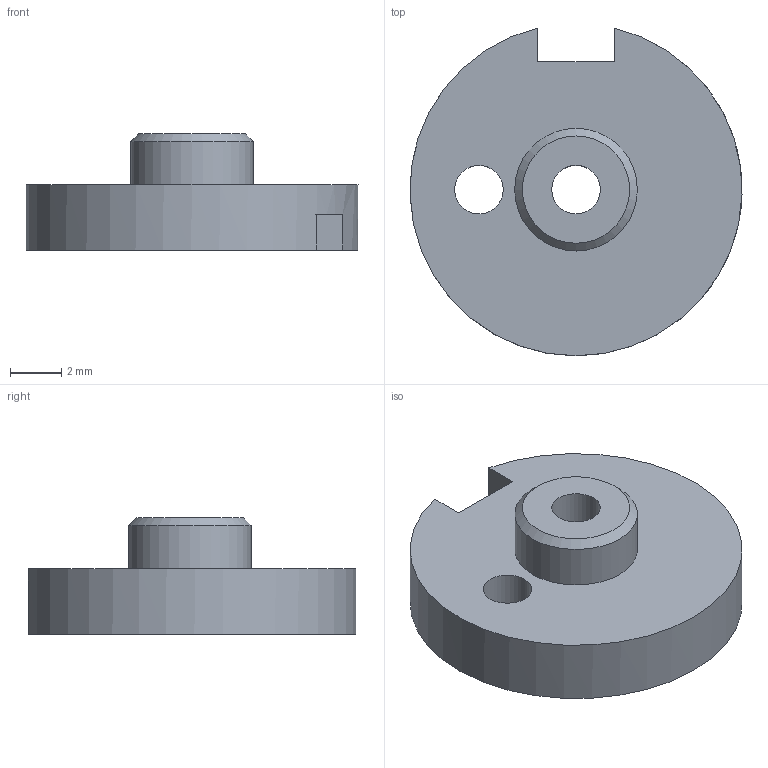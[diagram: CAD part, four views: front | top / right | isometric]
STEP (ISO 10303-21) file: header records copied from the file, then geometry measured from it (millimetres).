
FILE_DESCRIPTION(('Open CASCADE Model'),'2;1');
FILE_NAME('Open CASCADE Shape Model','2026-11-10T21:02:46',('Author'),( 'Open CASCADE'),'Open CASCADE STEP processor 7.9','Open CASCADE 7.9' ,'Unknown');
FILE_SCHEMA(('AUTOMOTIVE_DESIGN { 1 0 10303 214 1 1 1 1 }'));
Length unit declared in the file: millimetre
Products named in the file (1): Open CASCADE STEP translator 7.9 10
Bounding box: 12.99 x 12.82 x 4.55 mm (x, y, z)
Volume: 319.8 mm3; surface area: 452.8 mm2
Topology: 1 solids, 1 shells, 21 faces, 50 edges, 33 vertices
Faces by surface type: plane 16, cylinder 4, cone 1
Full cylindrical faces by diameter (mm): 1.9 x2, 4.8 x1
Entity records: 1252 total; most frequent: CARTESIAN_POINT 282, DIRECTION 158, ORIENTED_EDGE 100, PCURVE 100, DEFINITIONAL_REPRESENTATION 100, LINE 88, VECTOR 88, EDGE_CURVE 50
